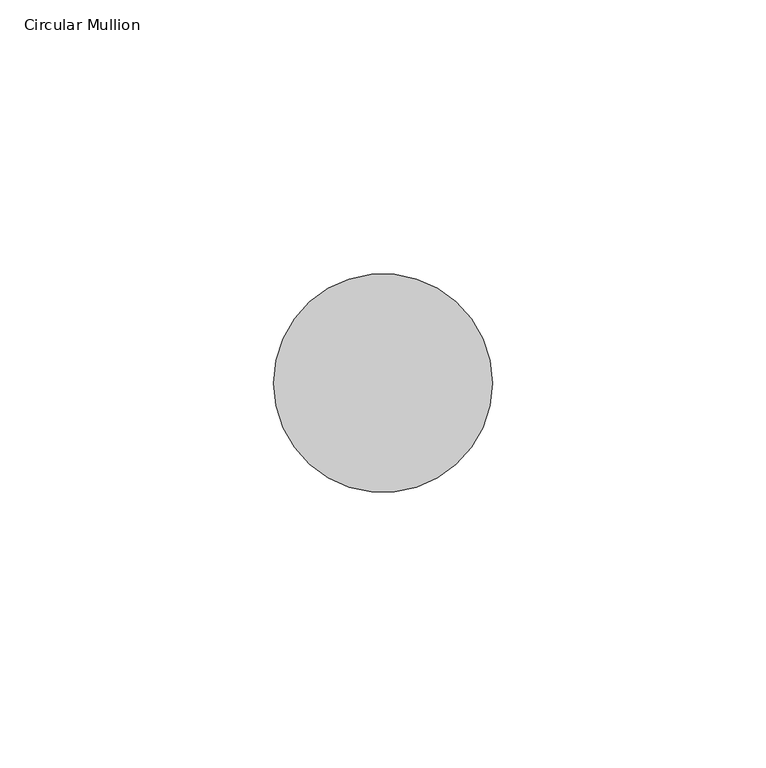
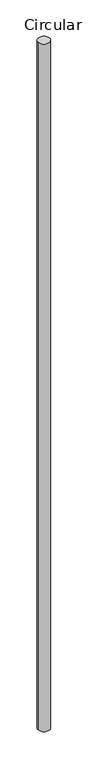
"""IFC4 building model written with IfcOpenShell, lengths in millimetres: member geometry, Circular Mullion : GRADIL 40mm."""

from ifc_helpers import new_model, si_unit, point, frame, origin, origin_2d, place, context, project, spatial, circle_curve, trimmed, segment, composite_curve, outline, extrude, source, transform, mapped, element, save


def circular_mullion_af346b7b(model_context):
    return source(origin(), model_context, "Body", "SweptSolid", [
        extrude(outline(composite_curve([segment(trimmed(circle_curve(origin_2d(), 20.0), [point((20.0, 0.0))], [point((-20.0, 0.0))], False, "CARTESIAN"), True, "CONTINUOUS"), segment(trimmed(circle_curve(origin_2d(), 20.0), [point((-20.0, 0.0))], [point((20.0, 0.0))], False, "CARTESIAN"), True, "CONTINUOUS")], self_intersect=False)), frame((0.0, 0.0, -2463.2063533), z_axis=(0.0, 0.0, 1.0), x_axis=(1.0, 0.0, 0.0)), (0.0, 0.0, 1.0), 2463.2063533),
    ])


if __name__ == "__main__":
    model = new_model("IFC4")
    model_context = context("Model", 3, world=origin())
    ifc_project = project(units=[si_unit("LENGTHUNIT", "METRE", prefix="MILLI")], contexts=[model_context])
    site = spatial("IfcSite", under=ifc_project)
    building = spatial("IfcBuilding", under=site)
    placement = place(None, origin())
    circular_mullion_shape = circular_mullion_af346b7b(model_context)
    element("IfcMember", 1, ObjectType="Circular Mullion : GRADIL 40mm", at=placement, inside=building, context=model_context, shape_type="MappedRepresentation", body=[
        mapped(circular_mullion_shape, transform((0.0, 0.0, 0.0), x_axis=(1.0, 0.0, 0.0), y_axis=(0.0, 1.0, 0.0), z_axis=(0.0, 0.0, 1.0))),
    ])
    save(model, "model.ifc")
